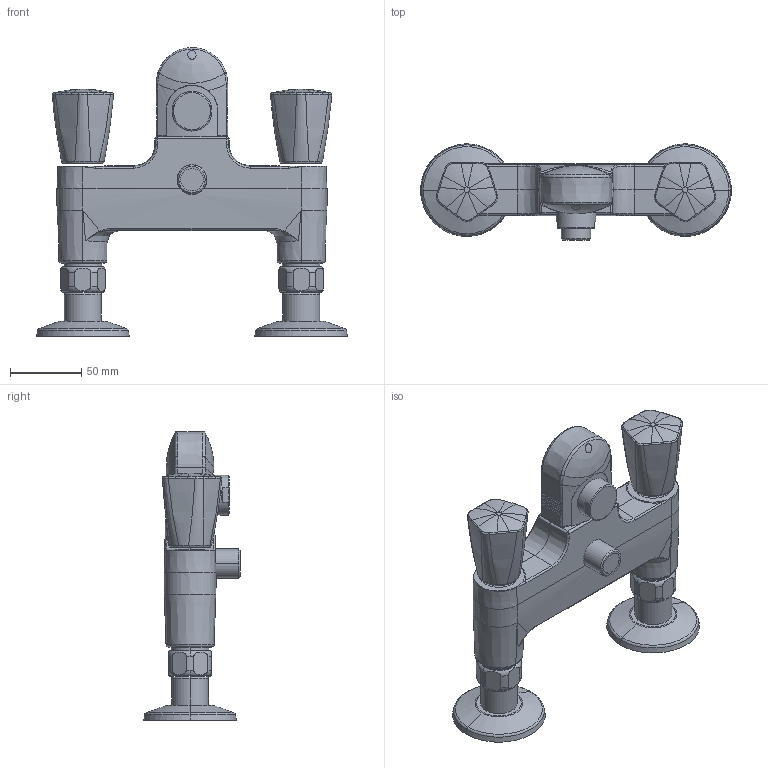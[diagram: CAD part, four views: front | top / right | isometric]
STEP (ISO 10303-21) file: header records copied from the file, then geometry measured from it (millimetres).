
FILE_DESCRIPTION((''),'2;1');
FILE_NAME('502308_SW0001','2020-06-08T13:41:20',('LF994'),(''),'CREO PARAMETRIC BY PTC INC, 2018500','CREO PARAMETRIC BY PTC INC, 2018500','');
FILE_SCHEMA(('CONFIG_CONTROL_DESIGN'));
Length unit declared in the file: millimetre
Products named in the file (1): 502308_SW0001
Bounding box: 218 x 67.74 x 202.6 mm (x, y, z)
Volume: 333675.7 mm3; surface area: 173627.1 mm2
Topology: 5 solids, 7 shells, 1725 faces, 4265 edges, 2576 vertices
Faces by surface type: plane 487, bspline 485, cylinder 451, cone 137, torus 121, sphere 32, extrusion 10, revolution 2
Entity records: 81182 total; most frequent: CARTESIAN_POINT 44871, ORIENTED_EDGE 8486, DIRECTION 6296, EDGE_CURVE 4243, VERTEX_POINT 2576, AXIS2_PLACEMENT_3D 2505, EDGE_LOOP 1781, FACE_OUTER_BOUND 1725
